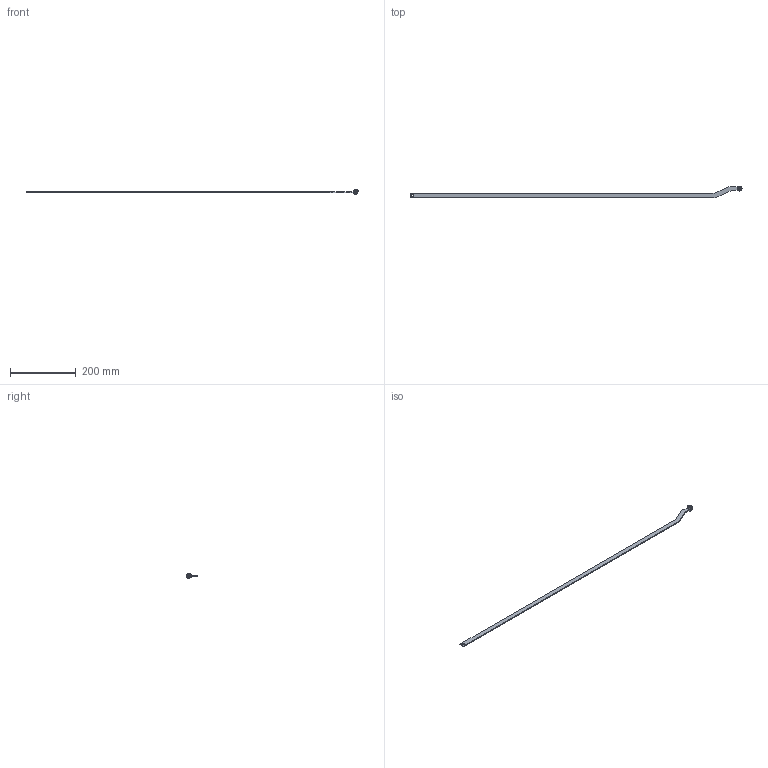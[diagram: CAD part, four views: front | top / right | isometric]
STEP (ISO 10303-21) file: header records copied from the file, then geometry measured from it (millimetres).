
FILE_DESCRIPTION (( 'STEP AP214' ), '1' );
FILE_NAME ('A25-L.STEP', '2016-08-18T08:30:42', ( 'RST-Dolba' ), ( '' ), 'SwSTEP 2.0', 'SolidWorks 2015', '' );
FILE_SCHEMA (( 'AUTOMOTIVE_DESIGN' ));
Length unit declared in the file: millimetre
Products named in the file (5): A25-L; DIN 125_M4; 1C.ROLKA.02.04.00_A-zak; 1C.905.001_A; 1C.A.X.Y.L.01_25
Assembly tree (5 placements, depth 2):
  A25-L
    1C.A.X.Y.L.01_25
    1C.905.001_A  x2
    1C.ROLKA.02.04.00_A-zak
    DIN 125_M4
Bounding box: 1007.5 x 36 x 14 mm (x, y, z)
Volume: 43654.1 mm3; surface area: 35842.1 mm2
Topology: 5 solids, 5 shells, 56 faces, 129 edges, 83 vertices
Faces by surface type: cylinder 28, plane 22, torus 4, cone 2
Entity records: 1605 total; most frequent: DIRECTION 275, CARTESIAN_POINT 240, ORIENTED_EDGE 222, EDGE_CURVE 111, AXIS2_PLACEMENT_3D 108, VERTEX_POINT 73, VECTOR 59, LINE 59
